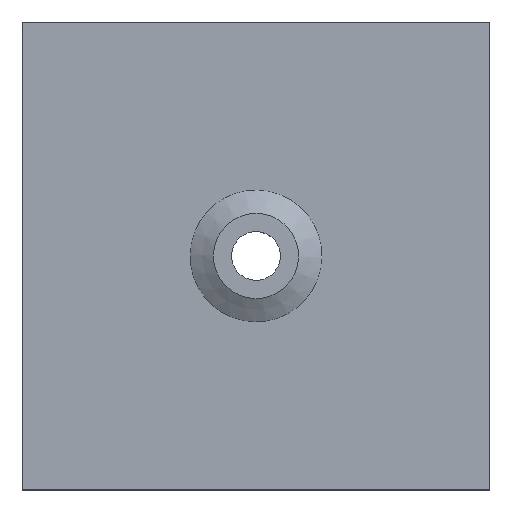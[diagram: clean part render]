
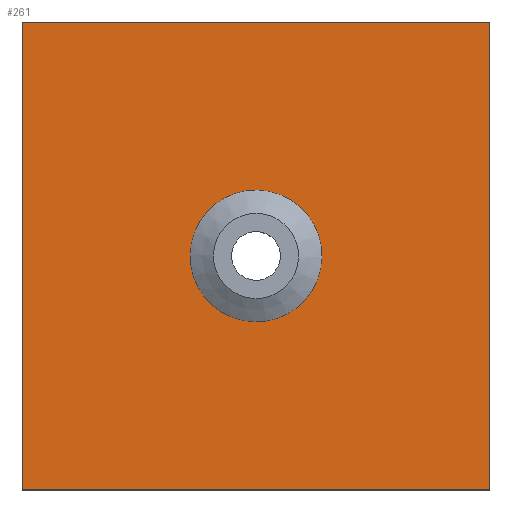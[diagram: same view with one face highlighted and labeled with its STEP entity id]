
A CAD part, top view. The second image highlights one B-rep face of the part: STEP entity #261.
In plain terms, the highlighted planar face has unit normal (0, 0, 1).
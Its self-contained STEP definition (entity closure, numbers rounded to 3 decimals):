
#20=FACE_BOUND('',#69,.T.);
#30=PLANE('',#312);
#47=FACE_OUTER_BOUND('',#68,.T.);
#68=EDGE_LOOP('',(#218,#219,#220,#221));
#69=EDGE_LOOP('',(#222));
#78=LINE('',#428,#96);
#81=LINE('',#434,#99);
#84=LINE('',#440,#102);
#86=LINE('',#443,#104);
#96=VECTOR('',#361,1.);
#99=VECTOR('',#366,1.);
#102=VECTOR('',#371,1.);
#104=VECTOR('',#375,1.);
#116=CIRCLE('',#310,42.);
#127=VERTEX_POINT('',#422);
#129=VERTEX_POINT('',#426);
#131=VERTEX_POINT('',#432);
#133=VERTEX_POINT('',#438);
#135=VERTEX_POINT('',#447);
#153=EDGE_CURVE('',#127,#129,#78,.T.);
#156=EDGE_CURVE('',#129,#131,#81,.F.);
#159=EDGE_CURVE('',#131,#133,#84,.T.);
#161=EDGE_CURVE('',#133,#127,#86,.F.);
#164=EDGE_CURVE('',#135,#135,#116,.T.);
#218=ORIENTED_EDGE('',*,*,#153,.T.);
#219=ORIENTED_EDGE('',*,*,#156,.T.);
#220=ORIENTED_EDGE('',*,*,#159,.T.);
#221=ORIENTED_EDGE('',*,*,#161,.T.);
#222=ORIENTED_EDGE('',*,*,#164,.F.);
#261=ADVANCED_FACE('',(#47,#20),#30,.T.);
#310=AXIS2_PLACEMENT_3D('',#449,#381,#382);
#312=AXIS2_PLACEMENT_3D('',#451,#385,#386);
#361=DIRECTION('',(0.,-1.,0.));
#366=DIRECTION('',(-1.,0.,0.));
#371=DIRECTION('',(0.,1.,0.));
#375=DIRECTION('',(1.,0.,0.));
#381=DIRECTION('center_axis',(0.,0.,1.));
#382=DIRECTION('ref_axis',(-1.,0.,0.));
#385=DIRECTION('center_axis',(0.,0.,1.));
#386=DIRECTION('ref_axis',(1.,0.,0.));
#422=CARTESIAN_POINT('',(-240.,240.,1.2));
#426=CARTESIAN_POINT('',(-240.,-240.,1.2));
#428=CARTESIAN_POINT('',(-240.,0.,1.2));
#432=CARTESIAN_POINT('',(240.,-240.,1.2));
#434=CARTESIAN_POINT('',(0.,-240.,1.2));
#438=CARTESIAN_POINT('',(240.,240.,1.2));
#440=CARTESIAN_POINT('',(240.,0.,1.2));
#443=CARTESIAN_POINT('',(0.,240.,1.2));
#447=CARTESIAN_POINT('',(-42.,0.,1.2));
#449=CARTESIAN_POINT('Origin',(0.,0.,1.2));
#451=CARTESIAN_POINT('Origin',(0.,0.,1.2));
